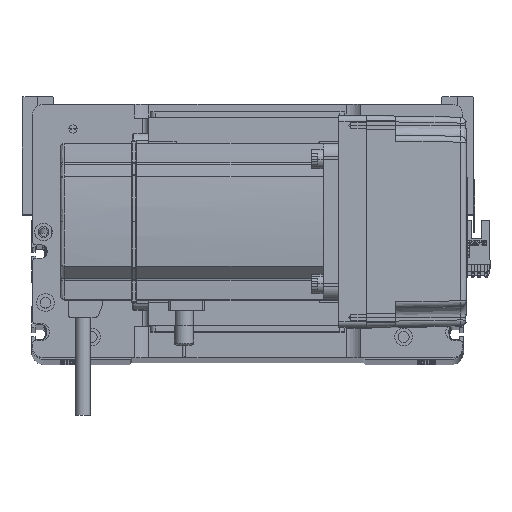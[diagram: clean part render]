
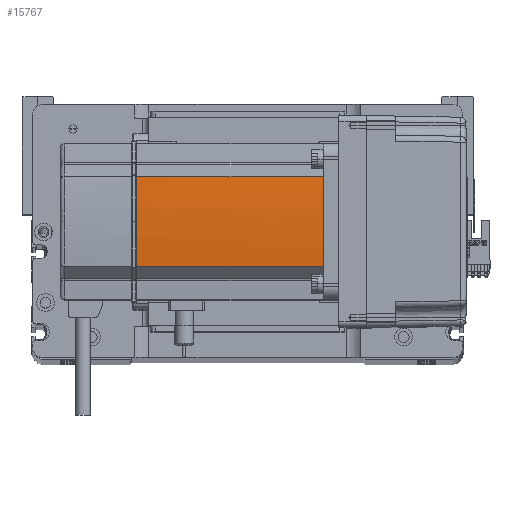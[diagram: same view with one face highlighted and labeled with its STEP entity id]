
A CAD part, top view. The second image highlights one B-rep face of the part: STEP entity #15767.
In plain terms, the highlighted cylindrical face has radius 270 mm (diameter 540 mm), a partial arc.
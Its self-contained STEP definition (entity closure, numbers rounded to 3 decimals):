
#604 = VERTEX_POINT ( 'NONE', #41434 ) ;
#2012 = CARTESIAN_POINT ( 'NONE',  ( -39.042, -22.724, 134. ) ) ;
#7503 = AXIS2_PLACEMENT_3D ( 'NONE', #7999, #8172, #29295 ) ;
#7817 = EDGE_CURVE ( 'NONE', #48269, #50170, #47105, .T. ) ;
#7999 = CARTESIAN_POINT ( 'NONE',  ( 230., 0., 134. ) ) ;
#8172 = DIRECTION ( 'NONE',  ( 0., 0., -1. ) ) ;
#8544 = CARTESIAN_POINT ( 'NONE',  ( -39.042, -22.724, 0. ) ) ;
#11501 = ORIENTED_EDGE ( 'NONE', *, *, #28960, .T. ) ;
#12948 = AXIS2_PLACEMENT_3D ( 'NONE', #33381, #45729, #16989 ) ;
#14306 = CARTESIAN_POINT ( 'NONE',  ( 230., 0., 134. ) ) ;
#15007 = CARTESIAN_POINT ( 'NONE',  ( 230., 0., 0. ) ) ;
#15473 = LINE ( 'NONE', #32400, #29646 ) ;
#15767 = ADVANCED_FACE ( 'NONE', ( #24061 ), #20144, .T. ) ;
#16989 = DIRECTION ( 'NONE',  ( 1., 0., 0. ) ) ;
#20144 = CYLINDRICAL_SURFACE ( 'NONE', #47622, 270. ) ;
#21563 = CARTESIAN_POINT ( 'NONE',  ( -40., 0., 134. ) ) ;
#22013 = VECTOR ( 'NONE', #28950, 1000. ) ;
#22743 = AXIS2_PLACEMENT_3D ( 'NONE', #14306, #43220, #35043 ) ;
#24061 = FACE_OUTER_BOUND ( 'NONE', #26977, .T. ) ;
#26731 = ORIENTED_EDGE ( 'NONE', *, *, #48540, .F. ) ;
#26977 = EDGE_LOOP ( 'NONE', ( #29746, #40325, #45555, #26731, #11501 ) ) ;
#27443 = DIRECTION ( 'NONE',  ( 1., 0., 0. ) ) ;
#28950 = DIRECTION ( 'NONE',  ( 0., 0., 1. ) ) ;
#28960 = EDGE_CURVE ( 'NONE', #51626, #48269, #44025, .T. ) ;
#29295 = DIRECTION ( 'NONE',  ( 1., 0., 0. ) ) ;
#29646 = VECTOR ( 'NONE', #37302, 1000. ) ;
#29746 = ORIENTED_EDGE ( 'NONE', *, *, #7817, .T. ) ;
#32400 = CARTESIAN_POINT ( 'NONE',  ( -39.042, 22.724, 0. ) ) ;
#33381 = CARTESIAN_POINT ( 'NONE',  ( 230., 0., 39. ) ) ;
#34334 = CARTESIAN_POINT ( 'NONE',  ( -39.042, -22.724, 39. ) ) ;
#35043 = DIRECTION ( 'NONE',  ( 1., 0., 0. ) ) ;
#35843 = VERTEX_POINT ( 'NONE', #52524 ) ;
#37302 = DIRECTION ( 'NONE',  ( 0., 0., -1. ) ) ;
#39817 = EDGE_CURVE ( 'NONE', #35843, #604, #15473, .T. ) ;
#40325 = ORIENTED_EDGE ( 'NONE', *, *, #42034, .T. ) ;
#41434 = CARTESIAN_POINT ( 'NONE',  ( -39.042, 22.724, 39. ) ) ;
#42034 = EDGE_CURVE ( 'NONE', #50170, #35843, #53431, .T. ) ;
#43220 = DIRECTION ( 'NONE',  ( 0., 0., -1. ) ) ;
#44025 = LINE ( 'NONE', #8544, #22013 ) ;
#44632 = DIRECTION ( 'NONE',  ( 0., 0., 1. ) ) ;
#45555 = ORIENTED_EDGE ( 'NONE', *, *, #39817, .T. ) ;
#45729 = DIRECTION ( 'NONE',  ( 0., 0., -1. ) ) ;
#47105 = CIRCLE ( 'NONE', #22743, 270. ) ;
#47622 = AXIS2_PLACEMENT_3D ( 'NONE', #15007, #44632, #27443 ) ;
#48269 = VERTEX_POINT ( 'NONE', #2012 ) ;
#48540 = EDGE_CURVE ( 'NONE', #51626, #604, #52799, .T. ) ;
#50170 = VERTEX_POINT ( 'NONE', #21563 ) ;
#51626 = VERTEX_POINT ( 'NONE', #34334 ) ;
#52524 = CARTESIAN_POINT ( 'NONE',  ( -39.042, 22.724, 134. ) ) ;
#52799 = CIRCLE ( 'NONE', #12948, 270. ) ;
#53431 = CIRCLE ( 'NONE', #7503, 270. ) ;
